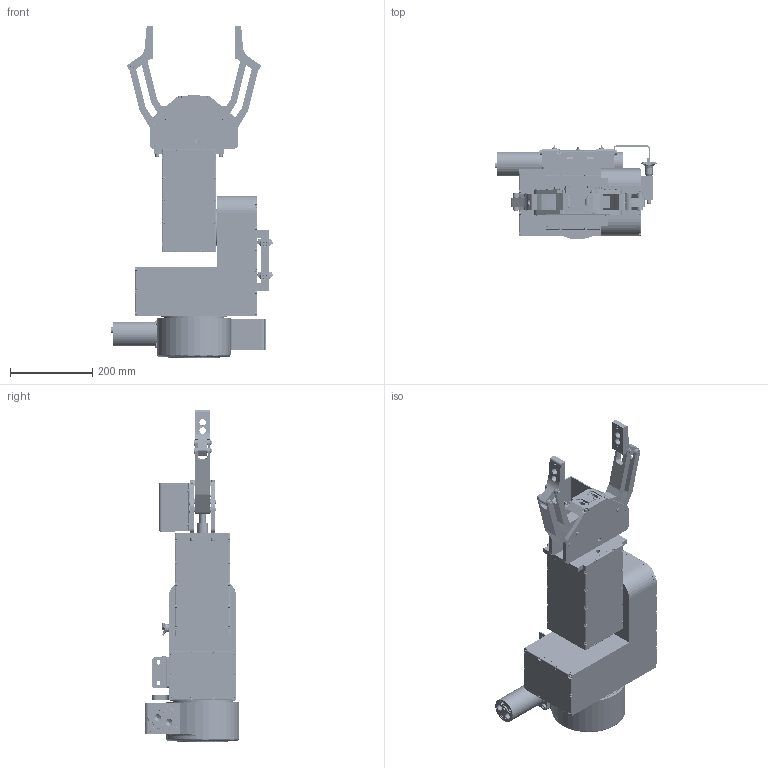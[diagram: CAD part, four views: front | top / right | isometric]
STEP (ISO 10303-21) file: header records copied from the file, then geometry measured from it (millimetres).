
FILE_DESCRIPTION (( 'STEP AP214' ), '1' );
FILE_NAME ('304-83-01-00-00-00.STEP', '2020-12-11T14:30:34', ( '' ), ( '' ), 'SwSTEP 2.0', 'SolidWorks 2016', '' );
FILE_SCHEMA (( 'AUTOMOTIVE_DESIGN' ));
Length unit declared in the file: millimetre
Products named in the file (113): 304-83-01-03-01-03; SE5C-SBM-BT_2; 304-83-01-02-02-00; O ring S7426 -D84; 304-83-01-03-08-00; SE5C-SBM-BT; 304-83-01-02-01-01; Elasticna podloška DIN 127_Spring washer DIN 128 - A10; Imbus vijak DIN 912_DIN 912 M5 x 14 --- 14C8.8 Zn; Imbus vijak DIN 912_DIN 912 M3 x 8 --- 8C8.8 Zn; 304-83-01-03-03-00; Imbus vijak DIN 912_DIN 912 M4 x 12 --- 12C8.8 Zn; Imbus vijak DIN 912_DIN 912 M4 x 35 --- 20C8.8 Zn; 60272800; Elatech U480T10_16; Imbus vijak DIN 912_DIN 912 M3 x 5 --- 5C8.8 Zn; 304-83-01-02-00-00; Vijak DIN 933_ISO 4017 - M5 x 12-C8.8 Zn; Elasticna podloška DIN 127_Spring washer DIN 128 - A5; Imbus vijak DIN 912_DIN 912 M6 x 25 --- 25C8.8 Zn; 304-83-01-02-01-04; Uvrtni imbus vijak s ravnim završetkom DIN 913_DIN 913 - M6 x 6-C8.8 Zn; Imbus vijak DIN 912_DIN 912 M5 x 12 --- 12C8.8 Zn; 304-83-01-01-02-00; 304-83-01-03-01-01; 304-83-01-03-18-02; 304-83-01-03-17-00; 304-83-01-03-10-00; s61702-2rsr; 5-MA16; 304-83-01-03-05-00_vreteno; 304-83-01-03-00-00; Nylon washer M8; BA 8; 304-83-01-01-02-02; JFM_0810125_10_1; Imbus vijak DIN 912_DIN 912 M6 x 16 --- 16C8.8 Zn; 304-83-01-03-18-01; Imbus vijak DIN 912_DIN 912 M3 x 20 --- 20C8.8 Zn; 304-83-01-02-01-06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
Assembly tree (354 placements, depth 5):
  304-83-01-00-00-00
    304-83-01-01-00-00
      3DSE5--62---16E--R
        SE5-H
        SE5C-SBM-BT
          SE5C-SBM-BT_2
          SE5C-SBM-BT
        5-MA16
          5-MA16_2
          5-MA16
        5-ECE
      304-83-01-01-01-00
      304-83-01-01-02-00
        304-83-01-01-02-01
        304-83-01-01-02-02
      MM8C
      Vijak DIN 7991 4x16_DIN 7991 - M6 x 12 --- 12C10.9 Zn  x3
      Elasticna podloška DIN 127_Spring washer DIN 128 - A5  x4
      Imbus vijak DIN 912_DIN 912 M5 x 12 --- 12C10.9 Zn  x4
      16X32X7 HMS5 RG
    304-83-01-02-00-00
      304-83-01-02-01-00_Strojna obrada
        304-83-01-02-01-01
        304-83-01-02-01-02
        304-83-01-02-01-03
        304-83-01-02-01-04
        304-83-01-02-01-05
        304-83-01-02-01-06
        304-83-01-02-01-07
      304-83-01-02-02-00
      304-83-01-02-03-00
      304-83-01-02-04-00
      304-83-01-02-05-00
      304-83-01-02-06-00
      304-83-01-02-07-00
      304-83-01-02-08-00
      shg-25-160-2uh
      HMDi06-005-024-30-BPIMI17E0607_16-120-352-003-0
      Imbus vijak DIN 912_DIN 912 M4 x 10 --- 10C8.8 Zn  x26
      Imbus vijak DIN 912_DIN 912 M3 x 20 --- 20C8.8 Zn  x6
      Elasticna podloška DIN 127_Spring washer DIN 128 - A6  x2
      Imbus vijak DIN 912_DIN 912 M6 x 16 --- 16C8.8 Zn  x2
      Imbus vijak DIN 912_DIN 912 M5 x 12 --- 12C8.8 Zn  x4
      Nylon washer M4  x12
      Imbus vijak DIN 912_DIN 912 M4 x 35 --- 20C8.8 Zn  x12
      Nylon washer M8  x4
      Vijak DIN 933_ISO 4017 - M8 x 25-C8.8 Zn  x4
      223800192  x2
      O ring S7426 - L487,5
      O ring S7426 - L808,5
      O ring S7426 -D110
      Elasticna podloška DIN 127_Spring washer DIN 128 - A5
      Imbus vijak DIN 912_DIN 912 M5 x 14 --- 14C8.8 Zn
      Elatech U480T10_16
    304-83-01-03-00-00
      304-83-01-03-01-00
        304-83-01-03-01-01
        304-83-01-03-01-02
        304-83-01-03-01-03
        304-83-01-03-01-03
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Bounding box: 394.19 x 230.55 x 808.34 mm (x, y, z)
Volume: 9111373.8 mm3; surface area: 2473528.2 mm2
Topology: 353 solids, 369 shells, 15315 faces, 37068 edges, 22380 vertices
Faces by surface type: plane 5474, cylinder 5253, bspline 1935, cone 1779, torus 858, sphere 16
Entity records: 508422 total; most frequent: CARTESIAN_POINT 176692, ORIENTED_EDGE 54398, DIRECTION 45735, EDGE_CURVE 27199, AXIS2_PLACEMENT_3D 17485, VERTEX_POINT 17061, EDGE_LOOP 12410, ADVANCED_FACE 11073
